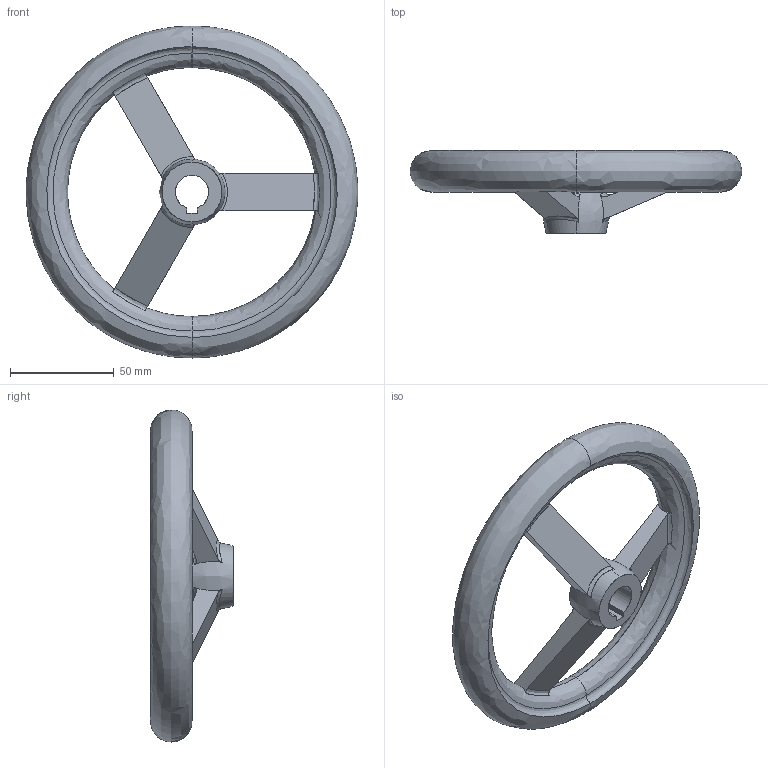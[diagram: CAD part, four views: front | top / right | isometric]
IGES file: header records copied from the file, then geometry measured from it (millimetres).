
Start section: SolidWorks IGES file using analytic representation for surfaces
Global section: file name: C:\Users\IanO\Desktop\Temp File\Process pending\77120_v2\77120_v2_20171108_IGES\77120.W0121.igs; native system: SolidWorks 2017; preprocessor: SolidWorks 2017; author: IanO; date: 171108.084214; units: millimetre
Bounding box: 160 x 40 x 160 mm (x, y, z)
Surface area: 38630.1 mm2 (no closed solid volume)
Topology: 0 solids, 0 shells, 53 faces, 921 edges, 913 vertices
Faces by surface type: bspline 52, revolution 1
